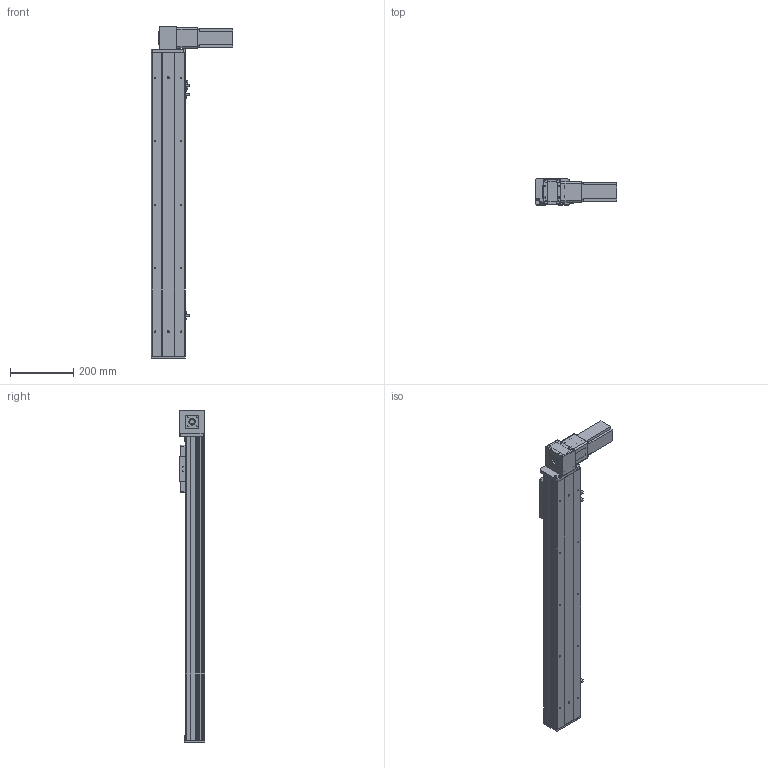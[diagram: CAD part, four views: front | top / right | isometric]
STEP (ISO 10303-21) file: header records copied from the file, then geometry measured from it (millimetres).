
FILE_DESCRIPTION (( 'STEP AP203' ), '1' );
FILE_NAME ('Y10CB-D90-S700-BM-P400W.STEP', '2020-02-17T02:28:05', ( '微软用户' ), ( '微软中国' ), 'SwSTEP 2.0', 'SolidWorks 2017', '' );
FILE_SCHEMA (( 'CONFIG_CONTROL_DESIGN' ));
Length unit declared in the file: millimetre
Products named in the file (16): Y10C---詩湍揤啣; 0CB-雄赽釱---; 10CB9-掛极; 0Cb-俋欶---; 10CB-耜裔; Y10B-々湍喘謫眊楊擘啣--; Y135C-陔俋离換覜結え-; san松下电机400不带刹车----; Y100-135俋离換覜ん--; 0B-源倛裔啣; Y10B--々湍喘謫眊--666; 0B-埴倛裔啣; 0B-薊粣ん眊; 10CB-詩湍-; Y10CB-D90-S700-BM-P400W; Y10CB- 掛极耜裔啣-毀---
Assembly tree (19 placements, depth 2):
  Y10CB-D90-S700-BM-P400W
    0CB-雄赽釱---
    0Cb-俋欶---
    Y10B-々湍喘謫眊楊擘啣--
    san松下电机400不带刹车----
    0B-源倛裔啣
    0B-埴倛裔啣
    10CB-詩湍-
    Y10CB- 掛极耜裔啣-毀---  x2
    Y10C---詩湍揤啣  x2
    10CB9-掛极
    10CB-耜裔
    Y135C-陔俋离換覜結え-
    Y100-135俋离換覜ん--  x3
    Y10B--々湍喘謫眊--666
    0B-薊粣ん眊
Bounding box: 258 x 80.5 x 1046 mm (x, y, z)
Volume: 2612913.5 mm3; surface area: 1103608.7 mm2
Topology: 19 solids, 19 shells, 876 faces, 2302 edges, 1508 vertices
Faces by surface type: plane 432, cylinder 420, cone 24
Entity records: 26569 total; most frequent: CARTESIAN_POINT 4608, DIRECTION 4321, ORIENTED_EDGE 4074, EDGE_CURVE 2037, AXIS2_PLACEMENT_3D 1551, VERTEX_POINT 1334, VECTOR 1219, LINE 1219
